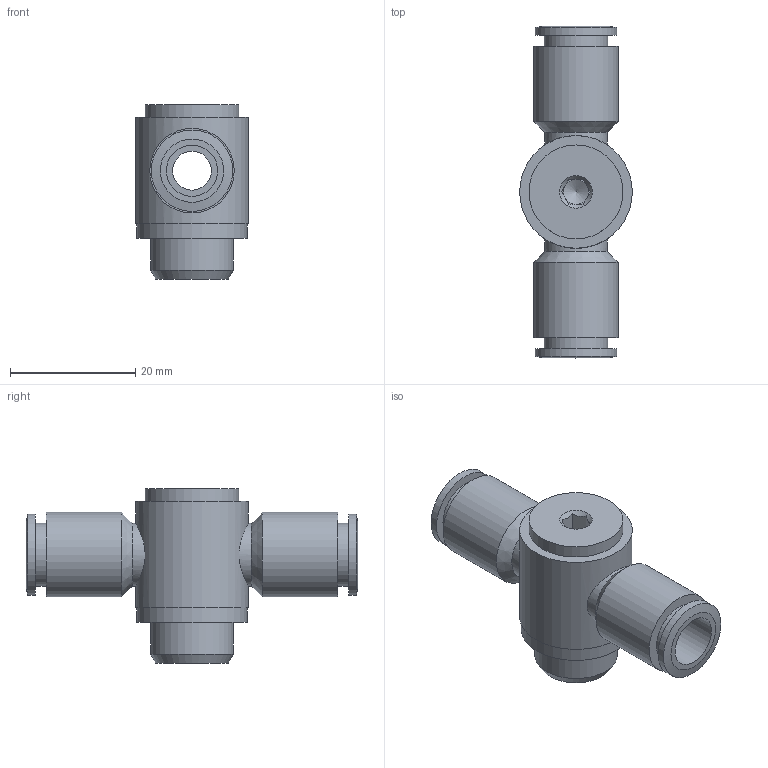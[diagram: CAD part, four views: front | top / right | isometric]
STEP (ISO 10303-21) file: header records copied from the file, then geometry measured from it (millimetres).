
FILE_DESCRIPTION((''),'2;1');
FILE_NAME('C:\Documents and Settings\rivolro1\Documenti\copia di Raccordi\PLASTICA\T16XXXX\T160814.stp','2007-10-31T15:06:36',('Rivolro1'),(''),'Autodesk Inventor 2008','Autodesk Inventor 2008','');
FILE_SCHEMA(('AUTOMOTIVE_DESIGN { 1 0 10303 214 1 1 1 1 }'));
Length unit declared in the file: millimetre
Products named in the file (1): T160814
Bounding box: 18 x 53 x 27.8 mm (x, y, z)
Volume: 8213.6 mm3; surface area: 5020.4 mm2
Topology: 1 solids, 1 shells, 48 faces, 101 edges, 65 vertices
Faces by surface type: plane 23, cylinder 12, bspline 8, cone 5
Full cylindrical faces by diameter (mm): 10 x2, 10.1 x2, 13 x2, 13.2 x1, 13.5 x2, 15 x1, 17.6 x1, 18 x1
Entity records: 1393 total; most frequent: CARTESIAN_POINT 455, DIRECTION 178, ORIENTED_EDGE 142, EDGE_LOOP 84, AXIS2_PLACEMENT_3D 80, EDGE_CURVE 71, VERTEX_POINT 59, FACE_OUTER_BOUND 48
